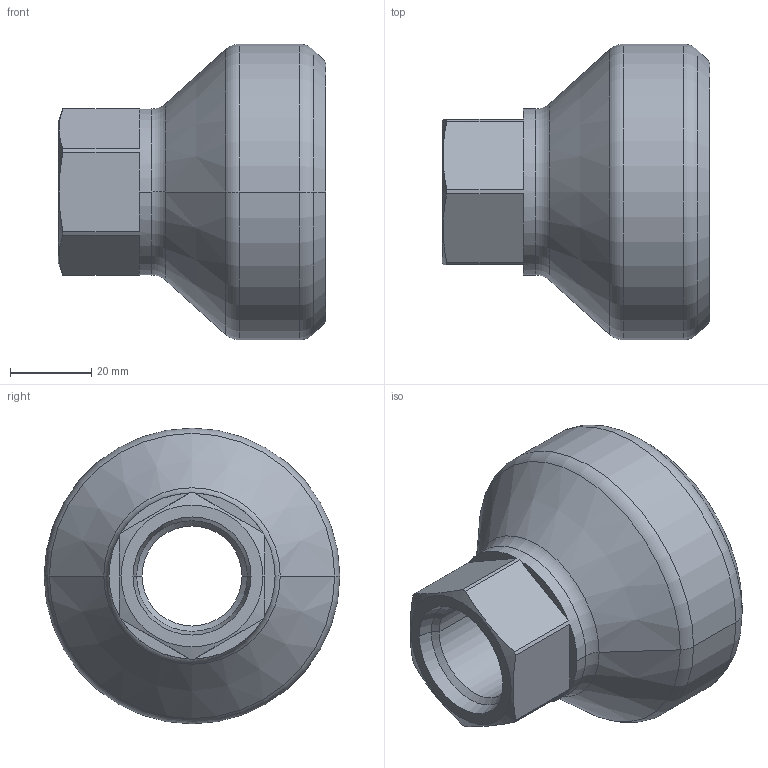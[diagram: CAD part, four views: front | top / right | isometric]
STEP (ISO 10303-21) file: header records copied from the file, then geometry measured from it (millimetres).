
FILE_DESCRIPTION((''),'2;1');
FILE_NAME('47011269','2025-11-14T10:47:22',('p.max'),(''),'CREO PARAMETRIC BY PTC INC, 2023254','CREO PARAMETRIC BY PTC INC, 2023254','');
FILE_SCHEMA(('AUTOMOTIVE_DESIGN { 1 0 10303 214 1 1 1 1 }'));
Length unit declared in the file: millimetre
Products named in the file (1): 47011269
Bounding box: 66 x 73 x 73 mm (x, y, z)
Volume: 64343.4 mm3; surface area: 23849.7 mm2
Topology: 1 solids, 1 shells, 52 faces, 118 edges, 70 vertices
Faces by surface type: cone 18, plane 16, cylinder 10, torus 8
Entity records: 1958 total; most frequent: CARTESIAN_POINT 304, DIRECTION 278, ORIENTED_EDGE 236, PRESENTATION_STYLE_ASSIGNMENT 119, STYLED_ITEM 119, CURVE_STYLE 118, EDGE_CURVE 118, AXIS2_PLACEMENT_3D 116
